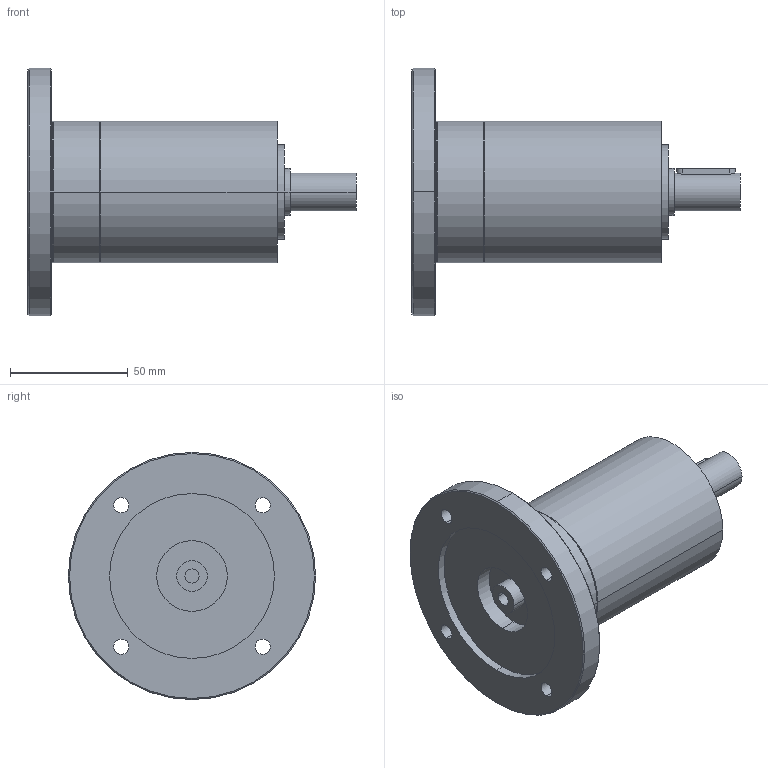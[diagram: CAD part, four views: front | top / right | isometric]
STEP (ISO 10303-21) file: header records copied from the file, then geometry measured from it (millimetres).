
FILE_DESCRIPTION(('CoCreate Modeling STEP Export'),'2;1');
FILE_NAME('GPR75_ig-9-12-16-20-24-30-36_16_B14_6_P05.stp','2014-08-25T16:04:32',(''),(''),'CoCreate Modeling STEP processor for AP214 (Solid Model)','CoCreate Modeling 16.00C 25-Feb-2009 (C) Parametric Technology GmbH','');
FILE_SCHEMA(('AUTOMOTIVE_DESIGN { 1 0 10303 214 1 1 1 1 }'));
Length unit declared in the file: millimetre
Products named in the file (2): GPR75_ig-9-12-16-20-24-30-36_16_B14_6_P05
Assembly tree (1 placements, depth 2):
  GPR75_ig-9-12-16-20-24-30-36_16_B14_6_P05
    GPR75_ig-9-12-16-20-24-30-36_16_B14_6_P05
Bounding box: 139.4 x 105 x 105 mm (x, y, z)
Volume: 347676.6 mm3; surface area: 44143.9 mm2
Topology: 1 solids, 1 shells, 71 faces, 187 edges, 131 vertices
Faces by surface type: cylinder 42, plane 19, cone 10
Entity records: 1882 total; most frequent: ORIENTED_EDGE 370, CARTESIAN_POINT 346, DIRECTION 244, EDGE_CURVE 185, VERTEX_POINT 131, EDGE_LOOP 94, AXIS2_PLACEMENT_3D 93, FACE_OUTER_BOUND 71
